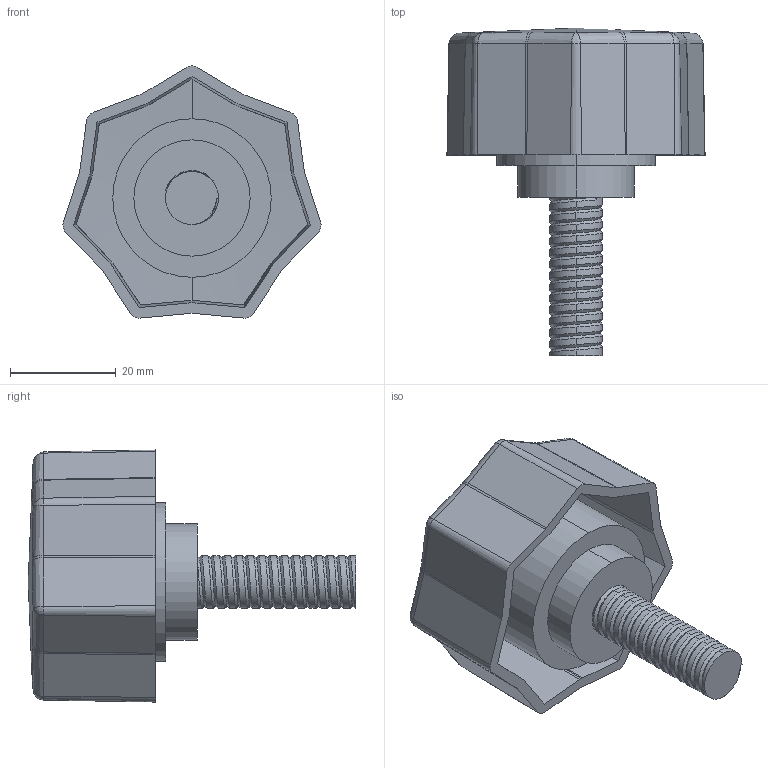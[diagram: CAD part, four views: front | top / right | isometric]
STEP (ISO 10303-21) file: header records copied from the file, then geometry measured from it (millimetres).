
FILE_DESCRIPTION (( 'STEP AP203' ), '1' );
FILE_NAME ('AP-1050-50-M10-30.STEP', '2015-11-23T12:03:29', ( '' ), ( '' ), 'SwSTEP 2.0', 'SolidWorks 2014', '' );
FILE_SCHEMA (( 'CONFIG_CONTROL_DESIGN' ));
Length unit declared in the file: millimetre
Products named in the file (1): AP-1050-50-M10-30
Bounding box: 48.85 x 62 x 47.71 mm (x, y, z)
Volume: 30470.7 mm3; surface area: 13220.7 mm2
Topology: 1 solids, 1 shells, 147 faces, 375 edges, 224 vertices
Faces by surface type: cylinder 51, bspline 51, plane 34, cone 11
Entity records: 8556 total; most frequent: CARTESIAN_POINT 5626, ORIENTED_EDGE 732, DIRECTION 416, EDGE_CURVE 366, VERTEX_POINT 224, EDGE_LOOP 150, ADVANCED_FACE 147, FACE_OUTER_BOUND 147
